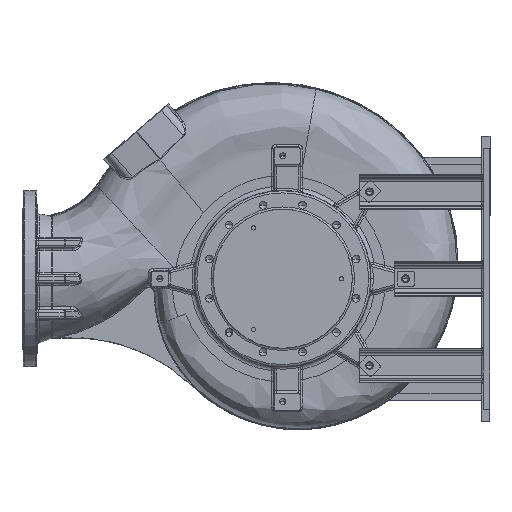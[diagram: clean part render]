
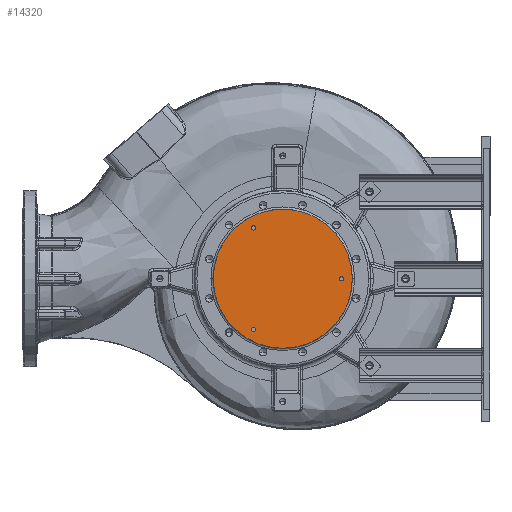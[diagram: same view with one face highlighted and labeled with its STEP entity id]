
A CAD part, left-side view. The second image highlights one B-rep face of the part: STEP entity #14320.
In plain terms, the highlighted planar face has unit normal (-1, 0, 0).
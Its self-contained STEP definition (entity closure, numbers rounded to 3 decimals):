
#4477 = VERTEX_POINT ( 'NONE', #133130 ) ;
#7853 = CARTESIAN_POINT ( 'NONE',  ( 0., -760., 0. ) ) ;
#8606 = DIRECTION ( 'NONE',  ( -1., 0., 0. ) ) ;
#8755 = CARTESIAN_POINT ( 'NONE',  ( 0., -532.5, -116.913 ) ) ;
#8878 = DIRECTION ( 'NONE',  ( -1., 0., 0. ) ) ;
#9683 = CIRCLE ( 'NONE', #108719, 5.1 ) ;
#11330 = AXIS2_PLACEMENT_3D ( 'NONE', #76713, #8606, #88204 ) ;
#12554 = AXIS2_PLACEMENT_3D ( 'NONE', #66539, #146109, #77960 ) ;
#12861 = CARTESIAN_POINT ( 'NONE',  ( 0., -532.5, 116.913 ) ) ;
#13346 = DIRECTION ( 'NONE',  ( -1., 0., 0. ) ) ;
#13430 = CARTESIAN_POINT ( 'NONE',  ( 0., -440., 0. ) ) ;
#14320 = ADVANCED_FACE ( 'NONE', ( #75670, #136324, #45469, #132715 ), #50142, .T. ) ;
#14601 = CARTESIAN_POINT ( 'NONE',  ( 0., -532.5, 116.913 ) ) ;
#17842 = CARTESIAN_POINT ( 'NONE',  ( 0., -527.4, -116.913 ) ) ;
#20192 = DIRECTION ( 'NONE',  ( 0., 1., 0. ) ) ;
#22046 = VERTEX_POINT ( 'NONE', #7853 ) ;
#22157 = ORIENTED_EDGE ( 'NONE', *, *, #48324, .F. ) ;
#23405 = VERTEX_POINT ( 'NONE', #17842 ) ;
#23515 = EDGE_CURVE ( 'NONE', #56498, #23405, #9683, .T. ) ;
#24297 = DIRECTION ( 'NONE',  ( 0., 1., 0. ) ) ;
#25282 = AXIS2_PLACEMENT_3D ( 'NONE', #8755, #88355, #20192 ) ;
#26030 = DIRECTION ( 'NONE',  ( 0., 1., 0. ) ) ;
#28045 = CARTESIAN_POINT ( 'NONE',  ( 0., -537.6, -116.913 ) ) ;
#31604 = CARTESIAN_POINT ( 'NONE',  ( 0., -729.9, 0. ) ) ;
#36575 = VERTEX_POINT ( 'NONE', #13430 ) ;
#39675 = EDGE_CURVE ( 'NONE', #107155, #4477, #132760, .T. ) ;
#39732 = EDGE_CURVE ( 'NONE', #22046, #36575, #102536, .T. ) ;
#39922 = EDGE_CURVE ( 'NONE', #96582, #110753, #81123, .T. ) ;
#45469 = FACE_BOUND ( 'NONE', #58337, .T. ) ;
#45798 = EDGE_LOOP ( 'NONE', ( #68044, #116504 ) ) ;
#48324 = EDGE_CURVE ( 'NONE', #110753, #96582, #110284, .T. ) ;
#50142 = PLANE ( 'NONE',  #65467 ) ;
#50616 = CARTESIAN_POINT ( 'NONE',  ( 0., -600., 0. ) ) ;
#51062 = CIRCLE ( 'NONE', #128982, 5.1 ) ;
#56498 = VERTEX_POINT ( 'NONE', #28045 ) ;
#58337 = EDGE_LOOP ( 'NONE', ( #22157, #75181 ) ) ;
#60841 = CARTESIAN_POINT ( 'NONE',  ( 0., -527.4, 116.913 ) ) ;
#62078 = DIRECTION ( 'NONE',  ( 0., 1., 0. ) ) ;
#65342 = DIRECTION ( 'NONE',  ( -1., 0., 0. ) ) ;
#65467 = AXIS2_PLACEMENT_3D ( 'NONE', #50616, #130252, #62078 ) ;
#66539 = CARTESIAN_POINT ( 'NONE',  ( 0., -600., 0. ) ) ;
#67546 = AXIS2_PLACEMENT_3D ( 'NONE', #12861, #92500, #24297 ) ;
#68044 = ORIENTED_EDGE ( 'NONE', *, *, #39675, .F. ) ;
#74621 = CIRCLE ( 'NONE', #25282, 5.1 ) ;
#75094 = AXIS2_PLACEMENT_3D ( 'NONE', #81525, #13346, #93002 ) ;
#75181 = ORIENTED_EDGE ( 'NONE', *, *, #39922, .F. ) ;
#75670 = FACE_BOUND ( 'NONE', #125980, .T. ) ;
#76713 = CARTESIAN_POINT ( 'NONE',  ( 0., -735., 0. ) ) ;
#76967 = CARTESIAN_POINT ( 'NONE',  ( 0., -532.5, -116.913 ) ) ;
#77700 = ORIENTED_EDGE ( 'NONE', *, *, #122345, .F. ) ;
#77960 = DIRECTION ( 'NONE',  ( 0., 1., 0. ) ) ;
#81123 = CIRCLE ( 'NONE', #11330, 5.1 ) ;
#81525 = CARTESIAN_POINT ( 'NONE',  ( 0., -600., 0. ) ) ;
#88204 = DIRECTION ( 'NONE',  ( 0., 1., 0. ) ) ;
#88355 = DIRECTION ( 'NONE',  ( -1., 0., 0. ) ) ;
#88483 = DIRECTION ( 'NONE',  ( 0., 1., 0. ) ) ;
#89837 = CIRCLE ( 'NONE', #12554, 160. ) ;
#90613 = EDGE_CURVE ( 'NONE', #36575, #22046, #89837, .T. ) ;
#92500 = DIRECTION ( 'NONE',  ( -1., 0., 0. ) ) ;
#93002 = DIRECTION ( 'NONE',  ( 0., 1., 0. ) ) ;
#94226 = DIRECTION ( 'NONE',  ( -1., 0., 0. ) ) ;
#96582 = VERTEX_POINT ( 'NONE', #146489 ) ;
#102536 = CIRCLE ( 'NONE', #75094, 160. ) ;
#104204 = EDGE_LOOP ( 'NONE', ( #120139, #120988 ) ) ;
#106129 = EDGE_CURVE ( 'NONE', #4477, #107155, #51062, .T. ) ;
#107155 = VERTEX_POINT ( 'NONE', #60841 ) ;
#108719 = AXIS2_PLACEMENT_3D ( 'NONE', #76967, #8878, #88483 ) ;
#109447 = AXIS2_PLACEMENT_3D ( 'NONE', #133560, #65342, #144949 ) ;
#110284 = CIRCLE ( 'NONE', #109447, 5.1 ) ;
#110753 = VERTEX_POINT ( 'NONE', #31604 ) ;
#116504 = ORIENTED_EDGE ( 'NONE', *, *, #106129, .F. ) ;
#120139 = ORIENTED_EDGE ( 'NONE', *, *, #90613, .T. ) ;
#120988 = ORIENTED_EDGE ( 'NONE', *, *, #39732, .T. ) ;
#122345 = EDGE_CURVE ( 'NONE', #23405, #56498, #74621, .T. ) ;
#125980 = EDGE_LOOP ( 'NONE', ( #77700, #147445 ) ) ;
#128982 = AXIS2_PLACEMENT_3D ( 'NONE', #14601, #94226, #26030 ) ;
#130252 = DIRECTION ( 'NONE',  ( -1., 0., 0. ) ) ;
#132715 = FACE_OUTER_BOUND ( 'NONE', #104204, .T. ) ;
#132760 = CIRCLE ( 'NONE', #67546, 5.1 ) ;
#133130 = CARTESIAN_POINT ( 'NONE',  ( 0., -537.6, 116.913 ) ) ;
#133560 = CARTESIAN_POINT ( 'NONE',  ( 0., -735., 0. ) ) ;
#136324 = FACE_BOUND ( 'NONE', #45798, .T. ) ;
#144949 = DIRECTION ( 'NONE',  ( 0., 1., 0. ) ) ;
#146109 = DIRECTION ( 'NONE',  ( -1., 0., 0. ) ) ;
#146489 = CARTESIAN_POINT ( 'NONE',  ( 0., -740.1, 0. ) ) ;
#147445 = ORIENTED_EDGE ( 'NONE', *, *, #23515, .F. ) ;
